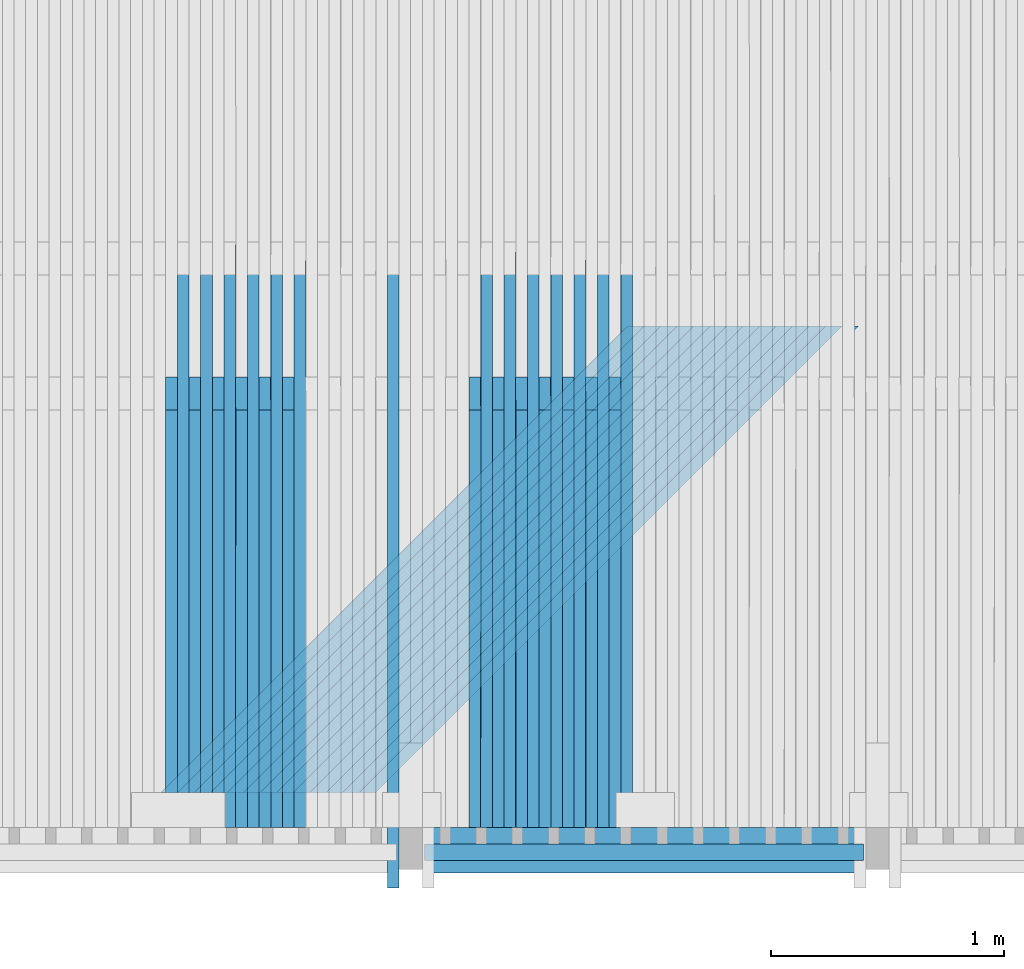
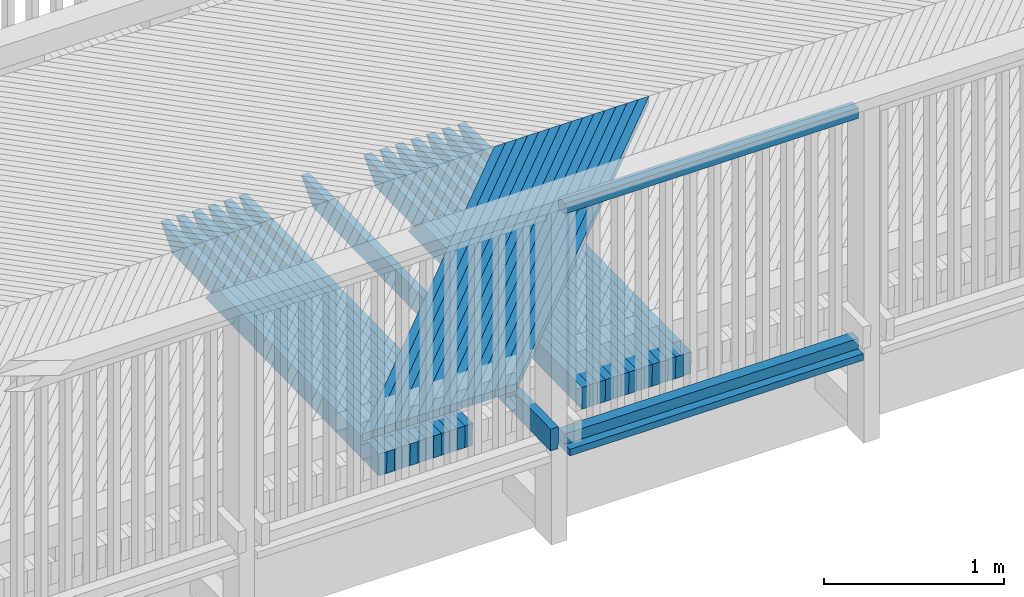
# One storey, part 30 of 52: 44 beams.
"""IFC2X3 building model written with IfcOpenShell, lengths in millimetres."""

from ifc_helpers import new_model, si_unit, frame, origin_with_axes, place, context, subcontext, project, spatial, faceted_brep, material, type_object, element, save


model = new_model("IFC2X3")

# Units and contexts
model_context = context("Model", 3, precision=1e-05, world=origin_with_axes())
body_context = subcontext(model_context, "Body", "Model", "MODEL_VIEW")
ifc_project = project(units=[si_unit("LENGTHUNIT", "METRE", prefix="MILLI"), si_unit("AREAUNIT", "SQUARE_METRE"), si_unit("VOLUMEUNIT", "CUBIC_METRE"), si_unit("MASSUNIT", "GRAM", prefix="KILO"), si_unit("TIMEUNIT", "SECOND"), si_unit("PLANEANGLEUNIT", "RADIAN"), si_unit("SOLIDANGLEUNIT", "STERADIAN"), si_unit("THERMODYNAMICTEMPERATUREUNIT", "DEGREE_CELSIUS"), si_unit("LUMINOUSINTENSITYUNIT", "LUMEN")], contexts=[model_context])

# Site, building, storey
site_placement = place(None, origin_with_axes())
site = spatial("IfcSite", under=ifc_project, at=site_placement, Name="Undefined", CompositionType="ELEMENT")
building_placement = place(site_placement, origin_with_axes())
building = spatial("IfcBuilding", under=site, at=building_placement, Name="Undefined", CompositionType="ELEMENT")
storey_placement = place(building_placement, origin_with_axes())
storey = spatial("IfcBuildingStorey", under=building, at=storey_placement, Name="Undefined", CompositionType="ELEMENT", Elevation=0.0)

# Beams
ifc_material = material(Name="TIMBER/Timber_Undefined")
beam_type_1 = type_object("IfcBeamType", Name="70*70", PredefinedType="NOTDEFINED")
for number, where, z_axis, x_axis, name in (
    (1, (10059.8168055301, 110.009931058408, 2964.92507854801), (0.0, -1.0, 0.0), (0.999986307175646, 0.0, -0.00523311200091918), "BEAM"),
    (2, (10059.8168055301, 110.009931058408, 4524.92507854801), (0.0, -1.0, 0.0), (0.999986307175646, 0.0, -0.00523311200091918), "BEAM"),
):
    element("IfcBeam", number, at=place(storey_placement, frame(where, z_axis=z_axis, x_axis=x_axis)), inside=storey, type_object=beam_type_1, material=ifc_material, Name=name, ObjectType="70*70", context=body_context, shape_type="Brep", body=[
        faceted_brep([(-3.63797880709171e-12, 35.0000000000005, -35.0), (-3.63797880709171e-12, 35.0000000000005, 35.0), (1880.02601672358, 34.9999999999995, 35.0), (1880.02601672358, 34.9999999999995, -35.0), (-3.63797880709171e-12, -34.9999999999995, 35.0), (1880.02601672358, -35.0000000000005, 35.0), (-3.63797880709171e-12, -34.9999999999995, -35.0), (1880.02601672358, -35.0000000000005, -35.0)], [[[0, 1, 2, 3]], [[1, 4, 5, 2]], [[4, 6, 7, 5]], [[6, 0, 3, 7]], [[5, 7, 3, 2]], [[6, 4, 1, 0]]]),
    ])
beam_type_2 = type_object("IfcBeamType", Name="50*50", PredefinedType="NOTDEFINED")
for number, where, z_axis, x_axis, name in (
    (3, (11884.1639920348, 2364.50010032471, 3223.59371167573), (0.707016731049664, -0.706981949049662, -0.0174317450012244), (-0.707181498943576, -0.706948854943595, -0.0108463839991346), "BEAM"),
    (4, (11813.441203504, 2364.50010032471, 3224.04579456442), (0.707018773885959, -0.706981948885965, -0.0173486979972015), (-0.707180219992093, -0.706948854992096, -0.0109294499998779), "BEAM"),
    (5, (11742.718362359, 2364.50010032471, 3224.48957030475), (0.707020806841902, -0.70698194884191, -0.0172656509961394), (-0.707178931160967, -0.706948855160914, -0.0110125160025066), "BEAM"),
    (6, (11671.9954695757, 2364.50010032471, 3224.92503889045), (0.707022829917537, -0.706981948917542, -0.017182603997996), (-0.707177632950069, -0.706948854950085, -0.0110955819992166), "BEAM"),
    (7, (11601.2725261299, 2364.50010032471, 3225.35220031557), (0.707024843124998, -0.706981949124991, -0.0170995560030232), (-0.707176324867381, -0.706948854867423, -0.0111786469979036), "BEAM"),
    (8, (11530.5495329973, 2364.50010032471, 3225.7710545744), (0.707026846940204, -0.706981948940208, -0.0170165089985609), (-0.707175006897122, -0.706948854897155, -0.0112617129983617), "BEAM"),
    (9, (11459.8264911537, 2364.50010032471, 3226.18160166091), (0.7070288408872, -0.706981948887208, -0.0169334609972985), (-0.707173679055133, -0.706948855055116, -0.0113447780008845), "BEAM"),
    (10, (11389.1034015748, 2364.50010032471, 3226.58384156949), (0.707030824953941, -0.706981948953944, -0.0168504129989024), (-0.70717234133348, -0.706948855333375, -0.011427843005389), "BEAM"),
    (11, (11318.3802652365, 2364.50010032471, 3226.97777429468), (0.707032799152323, -0.706981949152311, -0.0167673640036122), (-0.707170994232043, -0.70694885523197, -0.011510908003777), "BEAM"),
    (12, (11247.6570831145, 2364.50010032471, 3227.363399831), (0.707034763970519, -0.706981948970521, -0.0166843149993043), (-0.707169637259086, -0.706948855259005, -0.0115939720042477), "BEAM"),
    (13, (11176.9338561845, 2364.50010032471, 3227.7407181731), (0.707036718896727, -0.706981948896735, -0.0166012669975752), (-0.707168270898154, -0.706948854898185, -0.0116770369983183), "BEAM"),
    (14, (11106.2105854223, 2364.50010032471, 3228.10972931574), (0.707038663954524, -0.706981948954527, -0.0165182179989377), (-0.707166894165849, -0.706948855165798, -0.011760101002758), "BEAM"),
    (15, (11035.4872718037, 2364.50010032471, 3228.47043325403), (0.707040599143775, -0.706981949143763, -0.016435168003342), (-0.707165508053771, -0.706948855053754, -0.0118431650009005), "BEAM"),
    (16, (10964.7639163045, 2364.50010032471, 3228.82282998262), (0.707042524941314, -0.706981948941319, -0.0163521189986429), (-0.707164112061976, -0.706948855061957, -0.0119262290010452), "BEAM"),
):
    element("IfcBeam", number, at=place(storey_placement, frame(where, z_axis=z_axis, x_axis=x_axis)), inside=storey, type_object=beam_type_2, material=ifc_material, Name=name, ObjectType="50*50", context=body_context, shape_type="Brep", body=[
        faceted_brep([(24.894245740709, 25.0, -25.0), (-25.0086637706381, 24.9999999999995, 24.9999999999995), (2804.3406783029, 25.0000000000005, 25.0000000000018), (2854.34301907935, 25.0, -24.9999999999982), (-26.4222658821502, -25.0, 24.9999999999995), (2802.92643296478, -25.0, 25.0000000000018), (23.4806436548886, -25.0, -25.0), (2852.92877373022, -25.0, -24.9999999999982)], [[[0, 1, 2, 3]], [[1, 4, 5, 2]], [[4, 6, 7, 5]], [[6, 0, 3, 7]], [[5, 7, 3, 2]], [[6, 4, 1, 0]]]),
    ])
beam_type_3 = type_object("IfcBeamType", Name="195*45", PredefinedType="NOTDEFINED")
beam_1_placement = place(storey_placement, frame((10058.6596893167, 117.509931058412, 2907.43959457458), z_axis=(0.0, -1.0, 0.0), x_axis=(0.999986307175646, 0.0, -0.00523311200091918)))
element("IfcBeam", 17, at=beam_1_placement, inside=storey, type_object=beam_type_3, material=ifc_material, Name="BEAM", ObjectType="195*45", context=body_context, shape_type="Brep", body=[
    faceted_brep([(3.63797880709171e-12, 22.4999999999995, -97.5), (3.63797880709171e-12, 22.4999999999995, 97.5), (1880.22135781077, 22.4999999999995, 97.5), (1880.22135781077, 22.4999999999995, -97.5), (1.81898940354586e-12, -22.5000000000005, 97.5), (1880.22135781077, -22.5000000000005, 97.5), (1.81898940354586e-12, -22.5000000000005, -97.5), (1880.22135781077, -22.5000000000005, -97.5)], [[[0, 1, 2, 3]], [[1, 4, 5, 2]], [[4, 6, 7, 5]], [[6, 0, 3, 7]], [[5, 7, 3, 2]], [[6, 4, 1, 0]]]),
])
beam_type_4 = type_object("IfcBeamType", Name="150*50", PredefinedType="NOTDEFINED")
beam_2_placement = place(storey_placement, frame((10875.1411031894, 216.50460761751, 3086.28180497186), z_axis=(0.00469590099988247, -0.0199960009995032, 0.99978903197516), x_axis=(9.39180000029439e-05, 0.999800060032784, 0.0199957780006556)))
element("IfcBeam", 18, at=beam_2_placement, inside=storey, type_object=beam_type_4, material=ifc_material, Name="BEAM", ObjectType="150*50", context=body_context, shape_type="Brep", body=[
    faceted_brep([(-1.67788130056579e-07, -24.9999999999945, -74.9999999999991), (1.67786311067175e-07, -24.9999999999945, 75.0000000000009), (1.67786311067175e-07, 25.0000000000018, 75.0), (-1.67787220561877e-07, 25.0000000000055, -75.0), (1789.96936433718, -25.0000000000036, 74.9999999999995), (1789.96936408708, 24.9999999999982, 75.0000000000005), (1928.42646328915, 24.9999999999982, -74.9999999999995), (1928.42646353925, -25.0, -75.0)], [[[0, 1, 2, 3]], [[2, 1, 4, 5]], [[3, 2, 5, 6]], [[0, 3, 6, 7]], [[1, 0, 7, 4]], [[6, 5, 4, 7]]]),
])
beam_3_placement = place(storey_placement, frame((10925.1605446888, 216.504607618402, 3086.03855962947), z_axis=(0.00486202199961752, -0.0199960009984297, 0.999788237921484), x_axis=(9.72400000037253e-05, 0.999800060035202, 0.019995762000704)))
element("IfcBeam", 19, at=beam_3_placement, inside=storey, type_object=beam_type_4, material=ifc_material, Name="BEAM", ObjectType="150*50", context=body_context, shape_type="Brep", body=[
    faceted_brep([(-1.67788130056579e-07, -24.9999999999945, -74.9999999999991), (1.67786311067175e-07, -24.9999999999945, 75.0000000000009), (1.67786311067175e-07, 25.0000000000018, 75.0), (-1.67787220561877e-07, 25.0000000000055, -75.0), (2375.00494422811, 25.0000000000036, -74.9999999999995), (2375.0049444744, -24.9999999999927, -74.9999999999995), (2510.5924871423, -24.9999999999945, 60.5875430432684), (2150.42514405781, -24.9999999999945, 75.0000000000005), (2150.42515052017, 25.0000000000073, 75.0), (2510.59248715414, 25.0000000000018, 60.5875433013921)], [[[0, 1, 2, 3]], [[0, 3, 4, 5]], [[1, 0, 5, 6, 7]], [[2, 1, 7, 8]], [[4, 3, 2, 8, 9]], [[5, 4, 9, 6]], [[6, 9, 8, 7]]]),
])
beam_4_placement = place(storey_placement, frame((10775.1221713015, 216.50460761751, 3086.75121569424), z_axis=(0.00452978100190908, -0.0199960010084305, 0.999789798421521), x_axis=(9.05950000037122e-05, 0.999800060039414, 0.0199957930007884)))
element("IfcBeam", 20, at=beam_4_placement, inside=storey, type_object=beam_type_4, material=ifc_material, Name="BEAM", ObjectType="150*50", context=body_context, shape_type="Brep", body=[
    faceted_brep([(-1.67788130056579e-07, -24.9999999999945, -74.9999999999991), (1.67786311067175e-07, -24.9999999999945, 75.0000000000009), (1.67786311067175e-07, 25.0000000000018, 75.0), (-1.67787220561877e-07, 25.0000000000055, -75.0), (1789.96936433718, -25.0000000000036, 74.9999999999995), (1789.96936408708, 24.9999999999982, 75.0000000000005), (1928.42646328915, 24.9999999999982, -74.9999999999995), (1928.42646353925, -25.0, -75.0)], [[[0, 1, 2, 3]], [[2, 1, 4, 5]], [[3, 2, 5, 6]], [[0, 3, 6, 7]], [[1, 0, 7, 4]], [[6, 5, 4, 7]]]),
])
beam_5_placement = place(storey_placement, frame((10825.141652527, 216.504607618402, 3086.51628135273), z_axis=(0.00469590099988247, -0.0199960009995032, 0.99978903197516), x_axis=(9.39180000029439e-05, 0.999800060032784, 0.0199957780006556)))
element("IfcBeam", 21, at=beam_5_placement, inside=storey, type_object=beam_type_4, material=ifc_material, Name="BEAM", ObjectType="150*50", context=body_context, shape_type="Brep", body=[
    faceted_brep([(-1.67788130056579e-07, -24.9999999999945, -74.9999999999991), (1.67786311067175e-07, -24.9999999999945, 75.0000000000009), (1.67786311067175e-07, 25.0000000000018, 75.0), (-1.67787220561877e-07, 25.0000000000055, -75.0), (2375.00494422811, 25.0000000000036, -74.9999999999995), (2375.0049444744, -24.9999999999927, -74.9999999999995), (2510.5924871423, -24.9999999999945, 60.5875430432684), (2150.42514405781, -24.9999999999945, 75.0000000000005), (2150.42515052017, 25.0000000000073, 75.0), (2510.59248715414, 25.0000000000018, 60.5875433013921)], [[[0, 1, 2, 3]], [[0, 3, 4, 5]], [[1, 0, 5, 6, 7]], [[2, 1, 7, 8]], [[4, 3, 2, 8, 9]], [[5, 4, 9, 6]], [[6, 9, 8, 7]]]),
])
beam_6_placement = place(storey_placement, frame((10675.1031627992, 216.50460761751, 3087.20400773), z_axis=(0.00436366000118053, -0.0199960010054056, 0.999790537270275), x_axis=(8.72730000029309e-05, 0.999800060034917, 0.0199958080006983)))
element("IfcBeam", 22, at=beam_6_placement, inside=storey, type_object=beam_type_4, material=ifc_material, Name="BEAM", ObjectType="150*50", context=body_context, shape_type="Brep", body=[
    faceted_brep([(-1.67788130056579e-07, -24.9999999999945, -74.9999999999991), (1.67786311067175e-07, -24.9999999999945, 75.0000000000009), (1.67786311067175e-07, 25.0000000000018, 75.0), (-1.67787220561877e-07, 25.0000000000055, -75.0), (1789.96936433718, -25.0000000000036, 74.9999999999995), (1789.96936408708, 24.9999999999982, 75.0000000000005), (1928.42646328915, 24.9999999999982, -74.9999999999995), (1928.42646353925, -25.0, -75.0)], [[[0, 1, 2, 3]], [[2, 1, 4, 5]], [[3, 2, 5, 6]], [[0, 3, 6, 7]], [[1, 0, 7, 4]], [[6, 5, 4, 7]]]),
])
beam_7_placement = place(storey_placement, frame((10725.1226823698, 216.504607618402, 3086.9773843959), z_axis=(0.00452978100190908, -0.0199960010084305, 0.999789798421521), x_axis=(9.05950000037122e-05, 0.999800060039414, 0.0199957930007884)))
element("IfcBeam", 23, at=beam_7_placement, inside=storey, type_object=beam_type_4, material=ifc_material, Name="BEAM", ObjectType="150*50", context=body_context, shape_type="Brep", body=[
    faceted_brep([(-1.67788130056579e-07, -24.9999999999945, -74.9999999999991), (1.67786311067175e-07, -24.9999999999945, 75.0000000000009), (1.67786311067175e-07, 25.0000000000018, 75.0), (-1.67787220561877e-07, 25.0000000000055, -75.0), (2375.00494422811, 25.0000000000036, -74.9999999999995), (2375.0049444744, -24.9999999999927, -74.9999999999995), (2510.5924871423, -24.9999999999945, 60.5875430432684), (2150.42514405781, -24.9999999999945, 75.0000000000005), (2150.42515052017, 25.0000000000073, 75.0), (2510.59248715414, 25.0000000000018, 60.5875433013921)], [[[0, 1, 2, 3]], [[0, 3, 4, 5]], [[1, 0, 5, 6, 7]], [[2, 1, 7, 8]], [[4, 3, 2, 8, 9]], [[5, 4, 9, 6]], [[6, 9, 8, 7]]]),
])
beam_8_placement = place(storey_placement, frame((10575.0840804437, 216.50460761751, 3087.64018106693), z_axis=(0.00419753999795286, -0.0199960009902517, 0.99979124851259), x_axis=(8.39510000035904e-05, 0.999800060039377, 0.0199958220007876)))
element("IfcBeam", 24, at=beam_8_placement, inside=storey, type_object=beam_type_4, material=ifc_material, Name="BEAM", ObjectType="150*50", context=body_context, shape_type="Brep", body=[
    faceted_brep([(-1.67788130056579e-07, -24.9999999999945, -74.9999999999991), (1.67786311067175e-07, -24.9999999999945, 75.0000000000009), (1.67786311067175e-07, 25.0000000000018, 75.0), (-1.67787220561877e-07, 25.0000000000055, -75.0), (1789.96936433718, -25.0000000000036, 74.9999999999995), (1789.96936408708, 24.9999999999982, 75.0000000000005), (1928.42646328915, 24.9999999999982, -74.9999999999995), (1928.42646353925, -25.0, -75.0)], [[[0, 1, 2, 3]], [[2, 1, 4, 5]], [[3, 2, 5, 6]], [[0, 3, 6, 7]], [[1, 0, 7, 4]], [[6, 5, 4, 7]]]),
])
beam_9_placement = place(storey_placement, frame((10625.1036369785, 216.504607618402, 3087.4218687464), z_axis=(0.00436366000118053, -0.0199960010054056, 0.999790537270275), x_axis=(8.72730000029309e-05, 0.999800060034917, 0.0199958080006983)))
element("IfcBeam", 25, at=beam_9_placement, inside=storey, type_object=beam_type_4, material=ifc_material, Name="BEAM", ObjectType="150*50", context=body_context, shape_type="Brep", body=[
    faceted_brep([(-1.67788130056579e-07, -24.9999999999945, -74.9999999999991), (1.67786311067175e-07, -24.9999999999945, 75.0000000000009), (1.67786311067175e-07, 25.0000000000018, 75.0), (-1.67787220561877e-07, 25.0000000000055, -75.0), (2375.00494422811, 25.0000000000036, -74.9999999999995), (2375.0049444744, -24.9999999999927, -74.9999999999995), (2510.5924871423, -24.9999999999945, 60.5875430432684), (2150.42514405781, -24.9999999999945, 75.0000000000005), (2150.42515052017, 25.0000000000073, 75.0), (2510.59248715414, 25.0000000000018, 60.5875433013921)], [[[0, 1, 2, 3]], [[0, 3, 4, 5]], [[1, 0, 5, 6, 7]], [[2, 1, 7, 8]], [[4, 3, 2, 8, 9]], [[5, 4, 9, 6]], [[6, 9, 8, 7]]]),
])
beam_10_placement = place(storey_placement, frame((10475.0649269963, 216.50460761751, 3088.05973569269), z_axis=(0.00403141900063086, -0.019996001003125, 0.999791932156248), x_axis=(8.06280000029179e-05, 0.999800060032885, 0.0199958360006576)))
element("IfcBeam", 26, at=beam_10_placement, inside=storey, type_object=beam_type_4, material=ifc_material, Name="BEAM", ObjectType="150*50", context=body_context, shape_type="Brep", body=[
    faceted_brep([(-1.67788130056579e-07, -24.9999999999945, -74.9999999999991), (1.67786311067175e-07, -24.9999999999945, 75.0000000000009), (1.67786311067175e-07, 25.0000000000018, 75.0), (-1.67787220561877e-07, 25.0000000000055, -75.0), (1789.96936433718, -25.0000000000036, 74.9999999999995), (1789.96936408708, 24.9999999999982, 75.0000000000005), (1928.42646328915, 24.9999999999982, -74.9999999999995), (1928.42646353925, -25.0, -75.0)], [[[0, 1, 2, 3]], [[2, 1, 4, 5]], [[3, 2, 5, 6]], [[0, 3, 6, 7]], [[1, 0, 7, 4]], [[6, 5, 4, 7]]]),
])
beam_11_placement = place(storey_placement, frame((10525.0845191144, 216.504607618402, 3087.84973439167), z_axis=(0.00419753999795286, -0.0199960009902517, 0.99979124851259), x_axis=(8.39510000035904e-05, 0.999800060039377, 0.0199958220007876)))
element("IfcBeam", 27, at=beam_11_placement, inside=storey, type_object=beam_type_4, material=ifc_material, Name="BEAM", ObjectType="150*50", context=body_context, shape_type="Brep", body=[
    faceted_brep([(-1.67788130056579e-07, -24.9999999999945, -74.9999999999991), (1.67786311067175e-07, -24.9999999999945, 75.0000000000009), (1.67786311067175e-07, 25.0000000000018, 75.0), (-1.67787220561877e-07, 25.0000000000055, -75.0), (2375.00494422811, 25.0000000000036, -74.9999999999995), (2375.0049444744, -24.9999999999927, -74.9999999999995), (2510.5924871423, -24.9999999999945, 60.5875430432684), (2150.42514405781, -24.9999999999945, 75.0000000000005), (2150.42515052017, 25.0000000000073, 75.0), (2510.59248715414, 25.0000000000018, 60.5875433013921)], [[[0, 1, 2, 3]], [[0, 3, 4, 5]], [[1, 0, 5, 6, 7]], [[2, 1, 7, 8]], [[4, 3, 2, 8, 9]], [[5, 4, 9, 6]], [[6, 9, 8, 7]]]),
])
beam_12_placement = place(storey_placement, frame((10375.0457052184, 216.50460761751, 3088.46267159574), z_axis=(0.00386529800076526, -0.0199960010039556, 0.99979258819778), x_axis=(7.73060000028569e-05, 0.999800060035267, 0.0199958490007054)))
element("IfcBeam", 28, at=beam_12_placement, inside=storey, type_object=beam_type_4, material=ifc_material, Name="BEAM", ObjectType="150*50", context=body_context, shape_type="Brep", body=[
    faceted_brep([(-1.67788130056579e-07, -24.9999999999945, -74.9999999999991), (1.67786311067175e-07, -24.9999999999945, 75.0000000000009), (1.67786311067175e-07, 25.0000000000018, 75.0), (-1.67787220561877e-07, 25.0000000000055, -75.0), (1789.96936433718, -25.0000000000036, 74.9999999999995), (1789.96936408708, 24.9999999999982, 75.0000000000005), (1928.42646328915, 24.9999999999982, -74.9999999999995), (1928.42646353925, -25.0, -75.0)], [[[0, 1, 2, 3]], [[2, 1, 4, 5]], [[3, 2, 5, 6]], [[0, 3, 6, 7]], [[1, 0, 7, 4]], [[6, 5, 4, 7]]]),
])
beam_13_placement = place(storey_placement, frame((10425.0653315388, 216.504607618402, 3088.26098132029), z_axis=(0.00403141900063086, -0.019996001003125, 0.999791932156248), x_axis=(8.06280000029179e-05, 0.999800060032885, 0.0199958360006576)))
element("IfcBeam", 29, at=beam_13_placement, inside=storey, type_object=beam_type_4, material=ifc_material, Name="BEAM", ObjectType="150*50", context=body_context, shape_type="Brep", body=[
    faceted_brep([(-1.67788130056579e-07, -24.9999999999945, -74.9999999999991), (1.67786311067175e-07, -24.9999999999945, 75.0000000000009), (1.67786311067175e-07, 25.0000000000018, 75.0), (-1.67787220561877e-07, 25.0000000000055, -75.0), (2375.00494422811, 25.0000000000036, -74.9999999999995), (2375.0049444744, -24.9999999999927, -74.9999999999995), (2510.5924871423, -24.9999999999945, 60.5875430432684), (2150.42514405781, -24.9999999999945, 75.0000000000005), (2150.42515052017, 25.0000000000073, 75.0), (2510.59248715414, 25.0000000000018, 60.5875433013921)], [[[0, 1, 2, 3]], [[0, 3, 4, 5]], [[1, 0, 5, 6, 7]], [[2, 1, 7, 8]], [[4, 3, 2, 8, 9]], [[5, 4, 9, 6]], [[6, 9, 8, 7]]]),
])
beam_14_placement = place(storey_placement, frame((10275.0264178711, 216.50460761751, 3088.84898876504), z_axis=(0.00369917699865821, -0.0199960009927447, 0.999793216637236), x_axis=(7.39830000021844e-05, 0.999800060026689, 0.0199958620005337)))
element("IfcBeam", 30, at=beam_14_placement, inside=storey, type_object=beam_type_4, material=ifc_material, Name="BEAM", ObjectType="150*50", context=body_context, shape_type="Brep", body=[
    faceted_brep([(-1.67788130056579e-07, -24.9999999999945, -74.9999999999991), (1.67786311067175e-07, -24.9999999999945, 75.0000000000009), (1.67786311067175e-07, 25.0000000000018, 75.0), (-1.67787220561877e-07, 25.0000000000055, -75.0), (1789.96936433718, -25.0000000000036, 74.9999999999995), (1789.96936408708, 24.9999999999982, 75.0000000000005), (1928.42646328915, 24.9999999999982, -74.9999999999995), (1928.42646353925, -25.0, -75.0)], [[[0, 1, 2, 3]], [[2, 1, 4, 5]], [[3, 2, 5, 6]], [[0, 3, 6, 7]], [[1, 0, 7, 4]], [[6, 5, 4, 7]]]),
])
beam_15_placement = place(storey_placement, frame((10325.046077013, 216.504607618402, 3088.65560952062), z_axis=(0.00386529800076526, -0.0199960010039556, 0.99979258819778), x_axis=(7.73060000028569e-05, 0.999800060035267, 0.0199958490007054)))
element("IfcBeam", 31, at=beam_15_placement, inside=storey, type_object=beam_type_4, material=ifc_material, Name="BEAM", ObjectType="150*50", context=body_context, shape_type="Brep", body=[
    faceted_brep([(-1.67788130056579e-07, -24.9999999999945, -74.9999999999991), (1.67786311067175e-07, -24.9999999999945, 75.0000000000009), (1.67786311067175e-07, 25.0000000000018, 75.0), (-1.67787220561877e-07, 25.0000000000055, -75.0), (2375.00494422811, 25.0000000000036, -74.9999999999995), (2375.0049444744, -24.9999999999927, -74.9999999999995), (2510.5924871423, -24.9999999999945, 60.5875430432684), (2150.42514405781, -24.9999999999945, 75.0000000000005), (2150.42515052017, 25.0000000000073, 75.0), (2510.59248715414, 25.0000000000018, 60.5875433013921)], [[[0, 1, 2, 3]], [[0, 3, 4, 5]], [[1, 0, 5, 6, 7]], [[2, 1, 7, 8]], [[4, 3, 2, 8, 9]], [[5, 4, 9, 6]], [[6, 9, 8, 7]]]),
])
beam_16_placement = place(storey_placement, frame((9475.470089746, 216.50460761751, 3091.34174898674), z_axis=(0.00237020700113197, -0.0199960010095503, 0.999797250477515), x_axis=(4.74040000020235e-05, 0.999800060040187, 0.0199959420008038)))
element("IfcBeam", 32, at=beam_16_placement, inside=storey, type_object=beam_type_4, material=ifc_material, Name="BEAM", ObjectType="150*50", context=body_context, shape_type="Brep", body=[
    faceted_brep([(-1.67788130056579e-07, -24.9999999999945, -74.9999999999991), (1.67786311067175e-07, -24.9999999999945, 75.0000000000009), (1.67786311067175e-07, 25.0000000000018, 75.0), (-1.67787220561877e-07, 25.0000000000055, -75.0), (1789.96936433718, -25.0000000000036, 74.9999999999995), (1789.96936408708, 24.9999999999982, 75.0000000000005), (1928.42646328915, 24.9999999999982, -74.9999999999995), (1928.42646353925, -25.0, -75.0)], [[[0, 1, 2, 3]], [[2, 1, 4, 5]], [[3, 2, 5, 6]], [[0, 3, 6, 7]], [[1, 0, 7, 4]], [[6, 5, 4, 7]]]),
])
beam_17_placement = place(storey_placement, frame((9525.48996174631, 216.504607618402, 3091.21485816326), z_axis=(0.0025363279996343, -0.0199960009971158, 0.999796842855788), x_axis=(5.07260000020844e-05, 0.999800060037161, 0.0199959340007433)))
element("IfcBeam", 33, at=beam_17_placement, inside=storey, type_object=beam_type_4, material=ifc_material, Name="BEAM", ObjectType="150*50", context=body_context, shape_type="Brep", body=[
    faceted_brep([(-1.67788130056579e-07, -24.9999999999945, -74.9999999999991), (1.67786311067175e-07, -24.9999999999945, 75.0000000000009), (1.67786311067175e-07, 25.0000000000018, 75.0), (-1.67787220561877e-07, 25.0000000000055, -75.0), (2375.00494422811, 25.0000000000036, -74.9999999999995), (2375.0049444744, -24.9999999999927, -74.9999999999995), (2510.5924871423, -24.9999999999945, 60.5875430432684), (2150.42514405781, -24.9999999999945, 75.0000000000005), (2150.42515052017, 25.0000000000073, 75.0), (2510.59248715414, 25.0000000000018, 60.5875433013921)], [[[0, 1, 2, 3]], [[0, 3, 4, 5]], [[1, 0, 5, 6, 7]], [[2, 1, 7, 8]], [[4, 3, 2, 8, 9]], [[5, 4, 9, 6]], [[6, 9, 8, 7]]]),
])
beam_18_placement = place(storey_placement, frame((9375.45033644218, 216.50460761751, 3091.57859682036), z_axis=(0.00220408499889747, -0.0199960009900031, 0.999797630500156), x_axis=(4.4081000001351e-05, 0.999800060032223, 0.0199959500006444)))
element("IfcBeam", 34, at=beam_18_placement, inside=storey, type_object=beam_type_4, material=ifc_material, Name="BEAM", ObjectType="150*50", context=body_context, shape_type="Brep", body=[
    faceted_brep([(-1.67788130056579e-07, -24.9999999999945, -74.9999999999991), (1.67786311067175e-07, -24.9999999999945, 75.0000000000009), (1.67786311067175e-07, 25.0000000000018, 75.0), (-1.67787220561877e-07, 25.0000000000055, -75.0), (1789.96936433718, -25.0000000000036, 74.9999999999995), (1789.96936408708, 24.9999999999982, 75.0000000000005), (1928.42646328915, 24.9999999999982, -74.9999999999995), (1928.42646353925, -25.0, -75.0)], [[[0, 1, 2, 3]], [[2, 1, 4, 5]], [[3, 2, 5, 6]], [[0, 3, 6, 7]], [[1, 0, 7, 4]], [[6, 5, 4, 7]]]),
])
beam_19_placement = place(storey_placement, frame((9425.47022883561, 216.504607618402, 3091.46001706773), z_axis=(0.00237020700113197, -0.0199960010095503, 0.999797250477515), x_axis=(4.74040000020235e-05, 0.999800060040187, 0.0199959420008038)))
element("IfcBeam", 35, at=beam_19_placement, inside=storey, type_object=beam_type_4, material=ifc_material, Name="BEAM", ObjectType="150*50", context=body_context, shape_type="Brep", body=[
    faceted_brep([(-1.67788130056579e-07, -24.9999999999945, -74.9999999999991), (1.67786311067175e-07, -24.9999999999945, 75.0000000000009), (1.67786311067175e-07, 25.0000000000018, 75.0), (-1.67787220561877e-07, 25.0000000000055, -75.0), (2375.00494422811, 25.0000000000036, -74.9999999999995), (2375.0049444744, -24.9999999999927, -74.9999999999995), (2510.5924871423, -24.9999999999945, 60.5875430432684), (2150.42514405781, -24.9999999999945, 75.0000000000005), (2150.42515052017, 25.0000000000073, 75.0), (2510.59248715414, 25.0000000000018, 60.5875433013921)], [[[0, 1, 2, 3]], [[0, 3, 4, 5]], [[1, 0, 5, 6, 7]], [[2, 1, 7, 8]], [[4, 3, 2, 8, 9]], [[5, 4, 9, 6]], [[6, 9, 8, 7]]]),
])
beam_20_placement = place(storey_placement, frame((9275.43054516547, 216.50460761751, 3091.79882583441), z_axis=(0.00203796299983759, -0.0199960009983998, 0.999797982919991), x_axis=(4.07590000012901e-05, 0.999800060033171, 0.0199959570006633)))
element("IfcBeam", 36, at=beam_20_placement, inside=storey, type_object=beam_type_4, material=ifc_material, Name="BEAM", ObjectType="150*50", context=body_context, shape_type="Brep", body=[
    faceted_brep([(-1.67788130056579e-07, -24.9999999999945, -74.9999999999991), (1.67786311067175e-07, -24.9999999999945, 75.0000000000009), (1.67786311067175e-07, 25.0000000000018, 75.0), (-1.67787220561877e-07, 25.0000000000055, -75.0), (1789.96936433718, -25.0000000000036, 74.9999999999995), (1789.96936408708, 24.9999999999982, 75.0000000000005), (1928.42646328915, 24.9999999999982, -74.9999999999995), (1928.42646353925, -25.0, -75.0)], [[[0, 1, 2, 3]], [[2, 1, 4, 5]], [[3, 2, 5, 6]], [[0, 3, 6, 7]], [[1, 0, 7, 4]], [[6, 5, 4, 7]]]),
])
beam_21_placement = place(storey_placement, frame((9325.4504565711, 216.504607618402, 3091.68855715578), z_axis=(0.00220408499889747, -0.0199960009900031, 0.999797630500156), x_axis=(4.4081000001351e-05, 0.999800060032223, 0.0199959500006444)))
element("IfcBeam", 37, at=beam_21_placement, inside=storey, type_object=beam_type_4, material=ifc_material, Name="BEAM", ObjectType="150*50", context=body_context, shape_type="Brep", body=[
    faceted_brep([(-1.67788130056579e-07, -24.9999999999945, -74.9999999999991), (1.67786311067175e-07, -24.9999999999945, 75.0000000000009), (1.67786311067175e-07, 25.0000000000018, 75.0), (-1.67787220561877e-07, 25.0000000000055, -75.0), (2375.00494422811, 25.0000000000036, -74.9999999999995), (2375.0049444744, -24.9999999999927, -74.9999999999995), (2510.5924871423, -24.9999999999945, 60.5875430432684), (2150.42520082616, -25.0000000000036, 75.0000000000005), (2150.42515052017, 25.0000000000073, 75.0), (2510.59248715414, 25.0000000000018, 60.5875433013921)], [[[0, 1, 2, 3]], [[0, 3, 4, 5]], [[1, 0, 5, 6, 7]], [[2, 1, 7, 8]], [[4, 3, 2, 8, 9]], [[5, 4, 9, 6]], [[8, 7, 6, 9]]]),
])
beam_22_placement = place(storey_placement, frame((9175.41071867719, 216.50460761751, 3092.00243602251), z_axis=(0.00187184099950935, -0.0199960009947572, 0.999798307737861), x_axis=(3.7436000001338e-05, 0.999800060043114, 0.0199959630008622)))
element("IfcBeam", 38, at=beam_22_placement, inside=storey, type_object=beam_type_4, material=ifc_material, Name="BEAM", ObjectType="150*50", context=body_context, shape_type="Brep", body=[
    faceted_brep([(-1.67788130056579e-07, -24.9999999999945, -74.9999999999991), (1.67786311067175e-07, -24.9999999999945, 75.0000000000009), (1.67786311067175e-07, 25.0000000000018, 75.0), (-1.67787220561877e-07, 25.0000000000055, -75.0), (1789.96936433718, -25.0000000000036, 74.9999999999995), (1789.96936408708, 24.9999999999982, 75.0000000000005), (1928.42646328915, 24.9999999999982, -74.9999999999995), (1928.42646353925, -25.0, -75.0)], [[[0, 1, 2, 3]], [[2, 1, 4, 5]], [[3, 2, 5, 6]], [[0, 3, 6, 7]], [[1, 0, 7, 4]], [[6, 5, 4, 7]]]),
])
beam_23_placement = place(storey_placement, frame((9225.43064771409, 216.504607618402, 3091.9004784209), z_axis=(0.00203796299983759, -0.0199960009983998, 0.999797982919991), x_axis=(4.07590000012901e-05, 0.999800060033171, 0.0199959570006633)))
element("IfcBeam", 39, at=beam_23_placement, inside=storey, type_object=beam_type_4, material=ifc_material, Name="BEAM", ObjectType="150*50", context=body_context, shape_type="Brep", body=[
    faceted_brep([(-1.67788130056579e-07, -24.9999999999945, -74.9999999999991), (1.67786311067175e-07, -24.9999999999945, 75.0000000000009), (1.67786311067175e-07, 25.0000000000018, 75.0), (-1.67787220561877e-07, 25.0000000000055, -75.0), (2375.00494422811, 25.0000000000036, -74.9999999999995), (2375.0049444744, -24.9999999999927, -74.9999999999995), (2510.5924871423, -24.9999999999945, 60.5875430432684), (2150.42520082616, -25.0000000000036, 75.0000000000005), (2150.42520094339, 24.9999999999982, 74.9999999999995), (2510.59248715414, 25.0000000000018, 60.5875433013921)], [[[0, 1, 2, 3]], [[0, 3, 4, 5]], [[1, 0, 5, 6, 7]], [[2, 1, 7, 8]], [[4, 3, 2, 8, 9]], [[5, 4, 9, 6]], [[8, 7, 6, 9]]]),
])
beam_24_placement = place(storey_placement, frame((9075.39085973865, 216.50460761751, 3092.18942737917), z_axis=(0.00170571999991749, -0.0199960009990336, 0.999798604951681), x_axis=(3.41140000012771e-05, 0.999800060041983, 0.0199959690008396)))
element("IfcBeam", 40, at=beam_24_placement, inside=storey, type_object=beam_type_4, material=ifc_material, Name="BEAM", ObjectType="150*50", context=body_context, shape_type="Brep", body=[
    faceted_brep([(-1.67788130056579e-07, -24.9999999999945, -74.9999999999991), (1.67786311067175e-07, -24.9999999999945, 75.0000000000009), (1.67786311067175e-07, 25.0000000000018, 75.0), (-1.67787220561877e-07, 25.0000000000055, -75.0), (1789.96936433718, -25.0000000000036, 74.9999999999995), (1789.96936408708, 24.9999999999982, 75.0000000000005), (1928.42646328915, 24.9999999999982, -74.9999999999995), (1928.42646353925, -25.0, -75.0)], [[[0, 1, 2, 3]], [[2, 1, 4, 5]], [[3, 2, 5, 6]], [[0, 3, 6, 7]], [[1, 0, 7, 4]], [[6, 5, 4, 7]]]),
])
beam_25_placement = place(storey_placement, frame((9125.41080502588, 216.504607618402, 3092.09578085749), z_axis=(0.00187184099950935, -0.0199960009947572, 0.999798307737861), x_axis=(3.7436000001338e-05, 0.999800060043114, 0.0199959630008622)))
element("IfcBeam", 41, at=beam_25_placement, inside=storey, type_object=beam_type_4, material=ifc_material, Name="BEAM", ObjectType="150*50", context=body_context, shape_type="Brep", body=[
    faceted_brep([(-1.67788130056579e-07, -24.9999999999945, -74.9999999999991), (1.67786311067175e-07, -24.9999999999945, 75.0000000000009), (1.67786311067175e-07, 25.0000000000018, 75.0), (-1.67787220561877e-07, 25.0000000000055, -75.0), (2375.00494422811, 25.0000000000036, -74.9999999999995), (2375.0049444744, -24.9999999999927, -74.9999999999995), (2510.5924871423, -24.9999999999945, 60.5875430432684), (2150.42514405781, -24.9999999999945, 75.0000000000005), (2150.42515052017, 25.0000000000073, 75.0), (2510.59248715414, 25.0000000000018, 60.5875433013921)], [[[0, 1, 2, 3]], [[0, 3, 4, 5]], [[1, 0, 5, 6, 7]], [[2, 1, 7, 8]], [[4, 3, 2, 8, 9]], [[5, 4, 9, 6]], [[6, 9, 8, 7]]]),
])
beam_26_placement = place(storey_placement, frame((8975.37097111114, 216.50460761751, 3092.35979989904), z_axis=(0.00153959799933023, -0.0199960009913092, 0.999798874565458), x_axis=(3.0791000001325e-05, 0.999800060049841, 0.0199959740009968)))
element("IfcBeam", 42, at=beam_26_placement, inside=storey, type_object=beam_type_4, material=ifc_material, Name="BEAM", ObjectType="150*50", context=body_context, shape_type="Brep", body=[
    faceted_brep([(-1.67788130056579e-07, -24.9999999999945, -74.9999999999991), (1.67786311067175e-07, -24.9999999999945, 75.0000000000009), (1.67786311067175e-07, 25.0000000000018, 75.0), (-1.67787220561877e-07, 25.0000000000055, -75.0), (1928.42646353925, -25.0, -75.0), (1789.96936433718, -25.0000000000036, 74.9999999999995), (1789.96936408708, 24.9999999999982, 75.0000000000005), (1928.42646328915, 24.9999999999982, -74.9999999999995)], [[[0, 1, 2, 3]], [[1, 0, 4, 5]], [[2, 1, 5, 6]], [[3, 2, 6, 7]], [[0, 3, 7, 4]], [[7, 6, 5, 4]]]),
])
beam_27_placement = place(storey_placement, frame((9025.39093126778, 216.504607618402, 3092.27446445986), z_axis=(0.00170571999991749, -0.0199960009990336, 0.999798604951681), x_axis=(3.41140000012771e-05, 0.999800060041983, 0.0199959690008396)))
element("IfcBeam", 43, at=beam_27_placement, inside=storey, type_object=beam_type_4, material=ifc_material, Name="BEAM", ObjectType="150*50", context=body_context, shape_type="Brep", body=[
    faceted_brep([(-1.67788130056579e-07, -24.9999999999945, -74.9999999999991), (1.67786311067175e-07, -24.9999999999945, 75.0000000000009), (1.67786311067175e-07, 25.0000000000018, 75.0), (-1.67787220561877e-07, 25.0000000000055, -75.0), (2375.00494422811, 25.0000000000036, -74.9999999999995), (2375.0049444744, -24.9999999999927, -74.9999999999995), (2510.5924871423, -24.9999999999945, 60.5875430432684), (2150.42514405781, -24.9999999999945, 75.0000000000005), (2150.42515052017, 25.0000000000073, 75.0), (2510.59248715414, 25.0000000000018, 60.5875433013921)], [[[0, 1, 2, 3]], [[0, 3, 4, 5]], [[1, 0, 5, 6, 7]], [[2, 1, 7, 8]], [[4, 3, 2, 8, 9]], [[5, 4, 9, 6]], [[6, 9, 8, 7]]]),
])
beam_28_placement = place(storey_placement, frame((9925.02661654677, -41.4438078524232, 3084.9090463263), z_axis=(0.00320081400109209, -0.0199960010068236, 0.999794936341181), x_axis=(6.40160000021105e-05, 0.999800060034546, 0.0199958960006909)))
element("IfcBeam", 44, at=beam_28_placement, inside=storey, type_object=beam_type_4, material=ifc_material, Name="BEAM", ObjectType="150*50", context=body_context, shape_type="Brep", body=[
    faceted_brep([(-1.67788130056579e-07, -24.9999999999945, -74.9999999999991), (1.67786311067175e-07, -24.9999999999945, 75.0000000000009), (1.67786311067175e-07, 25.0000000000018, 75.0), (-1.67787220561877e-07, 25.0000000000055, -75.0), (2633.00494750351, 25.0, -74.9999999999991), (2633.00494763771, -25.0, -74.9999999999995), (2768.59248713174, -25.0, 60.5875397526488), (2408.42500011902, -25.0, 75.0), (2408.42500056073, 25.0, 75.0), (2768.59248710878, 24.9999999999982, 60.5875398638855)], [[[0, 1, 2, 3]], [[0, 3, 4, 5]], [[1, 0, 5, 6, 7]], [[2, 1, 7, 8]], [[4, 3, 2, 8, 9]], [[5, 4, 9, 6]], [[8, 7, 6, 9]]]),
])

save(model, "model.ifc")
